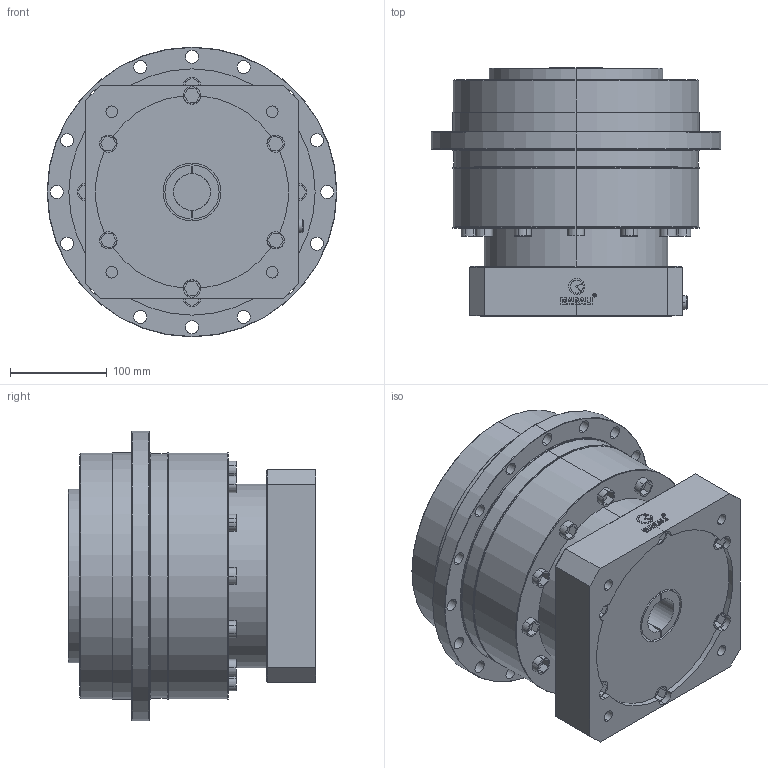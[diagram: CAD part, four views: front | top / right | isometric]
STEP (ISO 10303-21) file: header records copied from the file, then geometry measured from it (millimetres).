
FILE_DESCRIPTION (( 'STEP AP214' ), '1' );
FILE_NAME ('MAD-255-L1.step', '2020-06-26T07:24:26', ( '' ), ( '' ), 'SwSTEP 2.0', 'SolidWorks 2016', '' );
FILE_SCHEMA (( 'AUTOMOTIVE_DESIGN' ));
Length unit declared in the file: millimetre
Products named in the file (1): MAD-255-L1
Bounding box: 300 x 256.5 x 300 mm (x, y, z)
Volume: 11448620.7 mm3; surface area: 457369.9 mm2
Topology: 11 solids, 11 shells, 594 faces, 1509 edges, 977 vertices
Faces by surface type: plane 337, cylinder 150, bspline 63, cone 44
Entity records: 24729 total; most frequent: CARTESIAN_POINT 3874, ORIENTED_EDGE 2966, DIRECTION 2763, EDGE_CURVE 1483, VECTOR 1015, LINE 1015, VERTEX_POINT 977, AXIS2_PLACEMENT_3D 874
